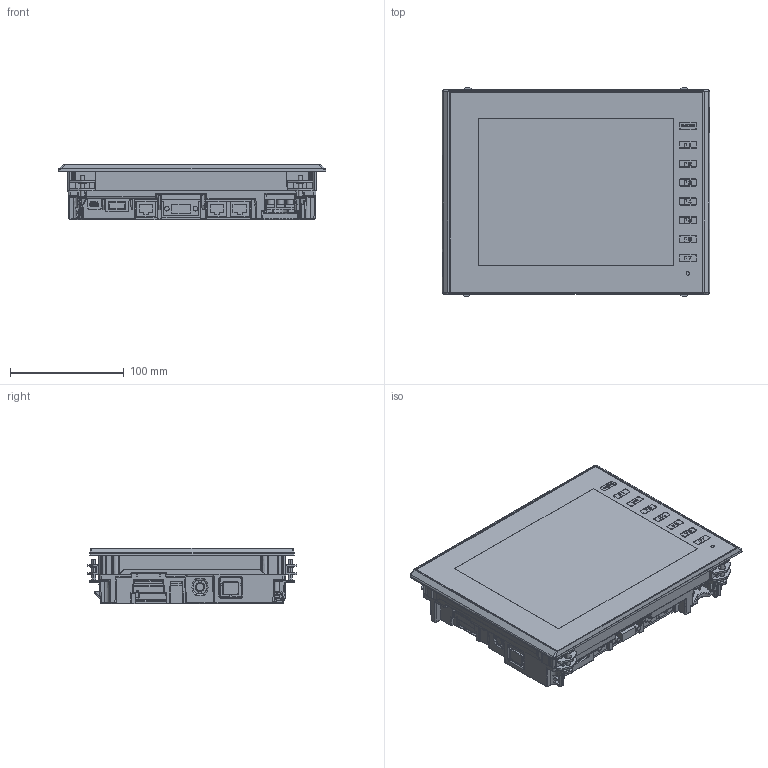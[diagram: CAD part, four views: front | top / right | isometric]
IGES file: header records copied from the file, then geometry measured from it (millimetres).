
Start section:  PTC IGES file: v9080icd_3d-data.igs
Global section: file name: v9080icd_3d-data.igs; native system: Pro/ENGINEER by Parametric Technology Corporation; preprocessor: 2007390; author: ichinose; organization: Unknown; date: 20140509.214121; units: millimetre
Bounding box: 235 x 183.7 x 48.9 mm (x, y, z)
Surface area: 137488.6 mm2 (no closed solid volume)
Topology: 0 solids, 0 shells, 3446 faces, 19106 edges, 19106 vertices
Faces by surface type: bspline 2831, revolution 606, extrusion 9
